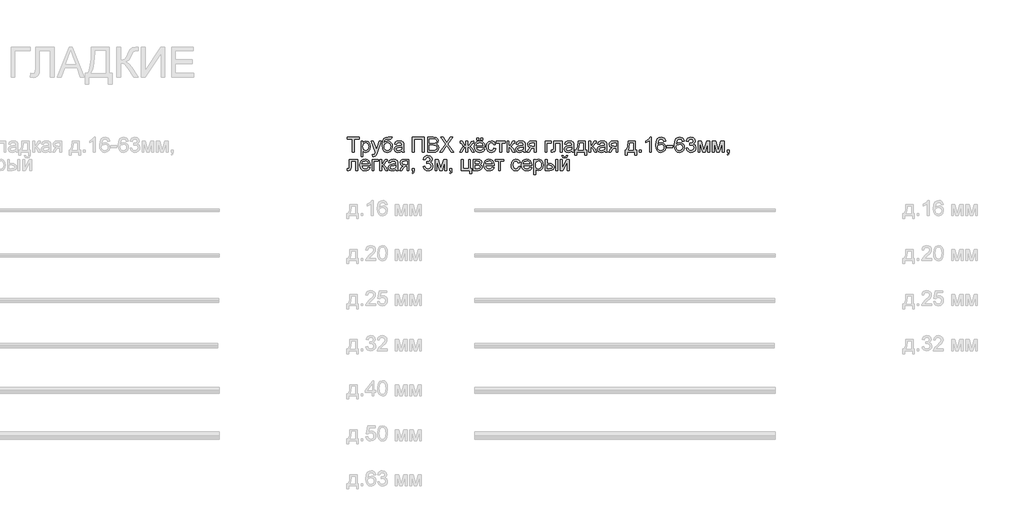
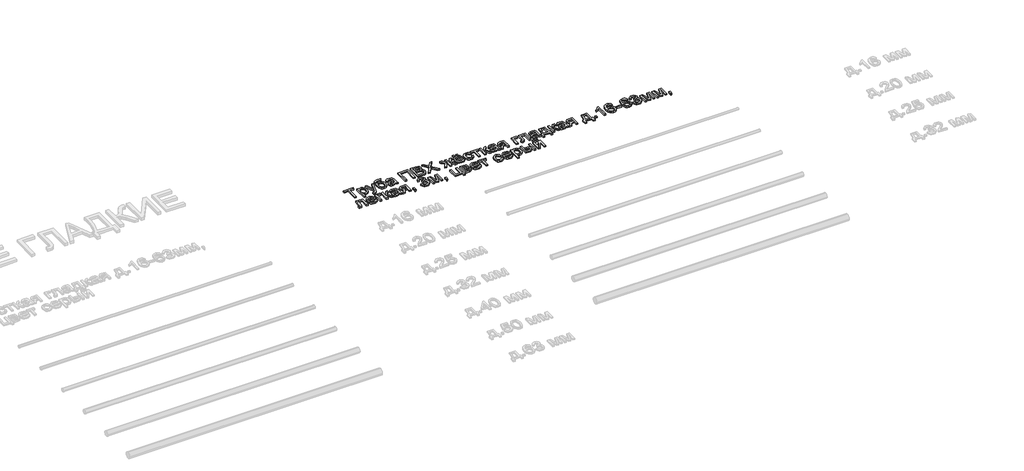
# One storey, part 93 of 98: 1 proxy.
"""IFC4 building model written with IfcOpenShell, lengths in millimetres."""

from ifc_helpers import new_model, si_unit, origin, origin_with_axes, place, context, project, spatial, polyline, outline, extrude, element, save

model = new_model("IFC4")

# Units and contexts
model_context = context("Model", 3, world=origin())
ifc_project = project(units=[si_unit("LENGTHUNIT", "METRE", prefix="MILLI")], contexts=[model_context])

# Site, building, storey
site = spatial("IfcSite", under=ifc_project)
building = spatial("IfcBuilding", under=site)
storey = spatial("IfcBuildingStorey", under=building, Name="Этаж 01", Elevation=0.0)

# Proxy
placement = place(None, origin())
element("IfcBuildingElementProxy", 1, Name="100", ObjectType="100", at=placement, inside=storey, context=model_context, shape_type="SweptSolid", body=[
    extrude(outline(polyline([(3688.710485, -3215.5625308), (3688.710485, -3127.6632594), (3655.7482582, -3127.6632594), (3655.7482582, -3115.1062206), (3734.2297505, -3115.1062206), (3734.2297505, -3127.6632594), (3701.2675238, -3127.6632594), (3701.2675238, -3215.5625308), (3688.710485, -3215.5625308)])), origin_with_axes(), (0.0, 0.0, 1.0), 10.0),
    extrude(outline(polyline([(3746.7867893, -3243.815868), (3746.7867893, -3141.789928), (3759.3438281, -3141.789928), (3759.3438281, -3154.1017121), (3768.0258432, -3143.6906516), (3779.7490161, -3140.2202982), (3795.6660437, -3145.0763405), (3806.0648415, -3158.7615507), (3809.5719831, -3178.1121437), (3805.6111203, -3198.456018), (3794.1086766, -3212.3129065), (3778.2284372, -3217.1321606), (3767.3023419, -3213.9070618), (3759.3438281, -3205.7523442), (3759.3438281, -3243.815868), (3746.7867893, -3243.815868)]), holes=[polyline([(3759.3438281, -3179.2648406), (3760.7019258, -3190.5220296), (3764.7762189, -3198.3947043), (3770.7880238, -3203.0300175), (3777.958657, -3204.5751218), (3785.2457862, -3202.9748352), (3791.4108753, -3198.1739751), (3795.6139271, -3190.0131262), (3797.0149444, -3178.3328729), (3795.6476496, -3167.1369975), (3791.5457654, -3159.1539582), (3785.5431575, -3154.3714922), (3778.4736918, -3152.7773369), (3771.376635, -3154.4726598), (3765.1441009, -3159.5586284), (3760.7938963, -3167.8758271), (3759.3438281, -3179.2648406)])]), origin_with_axes(), (0.0, 0.0, 1.0), 10.0),
    extrude(outline(polyline([(3823.6986518, -3243.815868), (3822.1290219, -3231.7248131), (3828.5056432, -3232.8284591), (3834.4653315, -3231.4427702), (3838.119626, -3227.5800093), (3841.5531913, -3218.3339085), (3842.5342099, -3215.2927506), (3815.8505025, -3141.789928), (3829.0942544, -3141.789928), (3843.2454484, -3182.7474568), (3848.1750672, -3199.1304683), (3853.1046859, -3184.6604432), (3867.6482874, -3141.789928), (3880.7939374, -3141.789928), (3855.1157741, -3217.3283643), (3848.4448473, -3233.7113759), (3841.1607838, -3242.5650692), (3831.3751227, -3245.3854978), (3823.6986518, -3243.815868)])), origin_with_axes(), (0.0, 0.0, 1.0), 10.0),
    extrude(outline(polyline([(3942.9905201, -3113.5365908), (3953.977929, -3113.5365908), (3950.7405674, -3123.3345146), (3944.3394207, -3126.8784445), (3928.9619533, -3127.6632594), (3908.250197, -3130.5572644), (3900.3039459, -3139.8278907), (3897.6184073, -3156.2354277), (3908.4954516, -3144.2179492), (3922.5117557, -3140.2202982), (3935.5776979, -3142.7617496), (3946.1788307, -3150.386104), (3953.2053768, -3162.3453345), (3955.5475588, -3177.8914145), (3950.899983, -3199.4983503), (3939.8757858, -3212.5336357), (3922.5117557, -3217.1321606), (3911.1779245, -3215.6514356), (3902.6829161, -3211.2092605), (3891.8303973, -3196.0525223), (3888.0534754, -3163.8873732), (3890.4355114, -3139.7941682), (3897.5816191, -3125.1003482), (3909.6696083, -3117.6047525), (3926.8772887, -3115.1062206), (3940.8568045, -3114.8241778), (3942.9905201, -3113.5365908)]), holes=[polyline([(3942.9905201, -3177.499007), (3941.6293567, -3167.6183097), (3937.5458665, -3159.7057812), (3930.9853043, -3154.509448), (3922.1929246, -3152.7773369), (3913.0265315, -3154.6075499), (3906.226846, -3160.0981886), (3902.0145972, -3168.6483793), (3900.6105142, -3179.657248), (3902.16175, -3190.3288916), (3906.8154572, -3198.1617124), (3913.7439014, -3202.9717695), (3922.1193482, -3204.5751218), (3930.5377145, -3202.7203835), (3937.20251, -3197.1561683), (3941.5435175, -3188.5324012), (3942.9905201, -3177.499007)])]), origin_with_axes(), (0.0, 0.0, 1.0), 10.0),
    extrude(outline(polyline([(4018.3327527, -3206.1447517), (4006.1558586, -3214.6550885), (3992.7036403, -3217.1321606), (3982.2098064, -3215.6422385), (3974.4689561, -3211.1724723), (3969.6956872, -3204.3850495), (3968.1045976, -3195.9421577), (3970.5080933, -3186.0093438), (3976.8234009, -3178.7988567), (3985.6157806, -3174.6785784), (3996.4805622, -3172.7901175), (4018.2591763, -3168.4736354), (4018.3327527, -3165.6777322), (4014.8746619, -3156.4071059), (4000.993248, -3152.7773369), (3988.2890564, -3155.1930954), (3982.2312662, -3163.7647458), (3969.6742274, -3162.195116), (3975.1066182, -3149.9323828), (3986.0449762, -3142.7464212), (4002.6119287, -3140.2202982), (4017.8299806, -3142.4521156), (4026.4261566, -3148.0561847), (4030.2766548, -3156.5787842), (4030.8897914, -3167.5661931), (4030.8897914, -3183.1889152), (4031.5274536, -3205.0043175), (4034.0290511, -3215.5625308), (4021.4720124, -3215.5625308), (4018.3327527, -3206.1447517)]), holes=[polyline([(4018.3327527, -3181.0306742), (3998.0747175, -3184.8811724), (3987.2712495, -3186.9167861), (3982.378419, -3190.227724), (3980.6616364, -3195.0592409), (3984.40177, -3201.8527951), (3995.3769162, -3204.5751218), (4008.0811077, -3201.5707522), (4016.2726135, -3194.2989514), (4018.2591763, -3184.5868668), (4018.3327527, -3181.0306742)])]), origin_with_axes(), (0.0, 0.0, 1.0), 10.0),
    extrude(outline(polyline([(4088.9660957, -3115.1062206), (4167.447588, -3115.1062206), (4167.447588, -3215.5625308), (4154.8905493, -3215.5625308), (4154.8905493, -3127.6632594), (4101.5231345, -3127.6632594), (4101.5231345, -3215.5625308), (4088.9660957, -3215.5625308), (4088.9660957, -3115.1062206)])), origin_with_axes(), (0.0, 0.0, 1.0), 10.0),
    extrude(outline(polyline([(4189.4224059, -3215.5625308), (4189.4224059, -3115.1062206), (4227.7557098, -3115.1062206), (4246.5299543, -3118.0615393), (4257.6154651, -3127.1482246), (4261.6253788, -3139.999569), (4258.2531272, -3151.7350046), (4248.0627959, -3160.6254862), (4260.4358937, -3169.9942143), (4264.7646385, -3185.6169364), (4261.8093198, -3199.1182056), (4254.4884681, -3208.7321884), (4243.5623728, -3213.8334854), (4227.4614042, -3215.5625308), (4189.4224059, -3215.5625308)]), holes=[polyline([(4201.9794447, -3155.9165966), (4224.9107557, -3155.9165966), (4238.3016603, -3154.8374761), (4246.358276, -3150.1899002), (4249.06834, -3142.0106572), (4246.542217, -3133.8191514), (4239.3072044, -3128.9753718), (4223.1694476, -3127.6632594), (4201.9794447, -3127.6632594), (4201.9794447, -3155.9165966)]), polyline([(4201.9794447, -3203.005492), (4227.7311843, -3203.005492), (4237.0508615, -3202.5149827), (4244.935799, -3199.7803932), (4250.1597233, -3194.2008496), (4252.2075997, -3185.7395637), (4249.804104, -3175.9784281), (4242.0172685, -3170.1536298), (4226.504911, -3168.4736354), (4201.9794447, -3168.4736354), (4201.9794447, -3203.005492)])]), origin_with_axes(), (0.0, 0.0, 1.0), 10.0),
    extrude(outline(polyline([(4271.0431579, -3215.5625308), (4309.7688692, -3160.8216899), (4277.3216773, -3115.1062206), (4292.3803136, -3115.1062206), (4310.651786, -3140.8334348), (4316.8076781, -3150.8643505), (4324.0181652, -3140.6617566), (4342.0934339, -3115.1062206), (4357.3727994, -3115.1062206), (4324.9256074, -3160.9688427), (4363.6513188, -3215.5625308), (4348.5926825, -3215.5625308), (4322.7918919, -3179.1667387), (4317.4208147, -3171.6128951), (4311.5101774, -3179.9025027), (4286.3225234, -3215.5625308), (4271.0431579, -3215.5625308)])), origin_with_axes(), (0.0, 0.0, 1.0), 10.0),
    extrude(outline(polyline([(4457.8291096, -3141.789928), (4457.8291096, -3173.1825249), (4465.1499613, -3170.5950882), (4472.0784055, -3157.1673954), (4480.3434877, -3144.2915256), (4492.0911861, -3141.789928), (4497.0698557, -3141.789928), (4497.0698557, -3154.4205432), (4493.611765, -3154.3469668), (4487.1370419, -3155.6468165), (4482.6488815, -3163.7892713), (4477.4372199, -3172.7165411), (4469.9937409, -3177.2537523), (4478.2036407, -3182.1404515), (4486.2050741, -3192.435016), (4500.2091154, -3215.5625308), (4485.8126667, -3215.5625308), (4472.0293546, -3192.7538471), (4465.0028085, -3183.2747543), (4457.8291096, -3181.0306742), (4457.8291096, -3215.5625308), (4445.2720708, -3215.5625308), (4445.2720708, -3181.0306742), (4438.1228974, -3183.2257034), (4431.0473003, -3192.7047961), (4417.2639882, -3215.5625308), (4402.892065, -3215.5625308), (4416.8470553, -3192.435016), (4424.9098024, -3182.1404515), (4433.1564904, -3177.2537523), (4425.2592903, -3172.2505572), (4418.4902616, -3159.3746874), (4415.1793236, -3155.1317817), (4409.7591955, -3154.2733904), (4406.0313247, -3154.3469668), (4406.0313247, -3141.789928), (4407.9197856, -3141.789928), (4418.93172, -3142.5747429), (4424.6461536, -3145.9102063), (4431.0473003, -3157.1673954), (4437.9021682, -3170.5092491), (4445.2720708, -3173.1825249), (4445.2720708, -3141.789928), (4457.8291096, -3141.789928)])), origin_with_axes(), (0.0, 0.0, 1.0), 10.0),
    extrude(outline(polyline([(4542.5891213, -3133.9417788), (4542.5891213, -3121.38474), (4555.14616, -3121.38474), (4555.14616, -3133.9417788), (4542.5891213, -3133.9417788)])), origin_with_axes(), (0.0, 0.0, 1.0), 10.0),
    extrude(outline(polyline([(4517.4750437, -3133.9417788), (4517.4750437, -3121.38474), (4530.0320825, -3121.38474), (4530.0320825, -3133.9417788), (4517.4750437, -3133.9417788)])), origin_with_axes(), (0.0, 0.0, 1.0), 10.0),
    extrude(outline(polyline([(4558.1382669, -3193.5877129), (4570.450051, -3195.1573428), (4566.0140073, -3204.4341004), (4558.9353446, -3211.368676), (4549.3734784, -3215.6912895), (4537.4878243, -3217.1321606), (4522.7541504, -3214.6458915), (4511.4172535, -3207.187084), (4504.1883723, -3195.2401162), (4501.7787453, -3179.289366), (4504.2128978, -3162.8021213), (4511.5153554, -3150.4719431), (4522.6989681, -3142.7832094), (4536.7765857, -3140.2202982), (4550.4158107, -3142.777078), (4561.3143148, -3150.4474176), (4568.4604226, -3162.7530704), (4570.8424585, -3179.2157896), (4570.7688821, -3182.600304), (4514.335784, -3182.600304), (4516.5093535, -3191.999689), (4521.5585339, -3198.9097391), (4528.8456631, -3203.1587762), (4537.7330789, -3204.5751218), (4550.044863, -3201.9508969), (4558.1382669, -3193.5877129)]), holes=[polyline([(4514.335784, -3170.0432652), (4558.2854197, -3170.0432652), (4553.2576991, -3158.6634488), (4545.9368474, -3154.2488649), (4536.7275348, -3152.7773369), (4521.2642283, -3157.4739637), (4516.3989889, -3162.9646025), (4514.335784, -3170.0432652)])]), origin_with_axes(), (0.0, 0.0, 1.0), 10.0),
    extrude(outline(polyline([(4630.4883926, -3188.8788234), (4643.0454314, -3190.4484532), (4639.5444211, -3201.6167375), (4632.9654647, -3210.0565636), (4623.9278304, -3215.3632614), (4613.0507861, -3217.1321606), (4599.693604, -3214.6642856), (4589.248821, -3207.2606604), (4582.5073834, -3195.2462476), (4580.2602376, -3178.9460095), (4584.0984731, -3158.0871004), (4595.7971205, -3144.683933), (4612.8791078, -3140.2202982), (4623.4894377, -3141.7531398), (4631.9721834, -3146.3516647), (4638.0575647, -3153.7706183), (4641.4758016, -3163.7647458), (4628.9187628, -3165.3343757), (4623.0939645, -3155.9288593), (4612.9772097, -3152.7773369), (4604.862346, -3154.3285727), (4598.4213454, -3158.9822799), (4594.2182936, -3166.9898447), (4592.8172763, -3178.602653), (4594.1876368, -3190.3718111), (4598.2987181, -3198.4069671), (4604.6232227, -3203.0330831), (4612.6338531, -3204.5751218), (4624.4673907, -3200.7246236), (4630.4883926, -3188.8788234)])), origin_with_axes(), (0.0, 0.0, 1.0), 10.0),
    extrude(outline(polyline([(4647.754321, -3141.789928), (4707.4002551, -3141.789928), (4707.4002551, -3154.3469668), (4683.8558074, -3154.3469668), (4683.8558074, -3215.5625308), (4671.2987686, -3215.5625308), (4671.2987686, -3154.3469668), (4647.754321, -3154.3469668), (4647.754321, -3141.789928)])), origin_with_axes(), (0.0, 0.0, 1.0), 10.0),
    extrude(outline(polyline([(4718.387664, -3141.789928), (4730.9447028, -3141.789928), (4730.9447028, -3173.1825249), (4739.3569377, -3170.926182), (4746.2485938, -3157.7805321), (4751.9752902, -3146.4375039), (4757.0275363, -3142.7464212), (4766.2123234, -3141.789928), (4768.6158191, -3141.789928), (4768.6158191, -3154.4205432), (4765.2313047, -3154.3469668), (4759.0999382, -3155.671342), (4754.7834561, -3163.9364241), (4749.7189473, -3172.8759566), (4742.6188248, -3177.2537523), (4750.5405504, -3182.1404515), (4758.3151232, -3192.435016), (4771.7550788, -3215.5625308), (4757.4812574, -3215.5625308), (4744.311082, -3192.9255253), (4737.689206, -3183.3483307), (4730.9447028, -3181.0306742), (4730.9447028, -3215.5625308), (4718.387664, -3215.5625308), (4718.387664, -3141.789928)])), origin_with_axes(), (0.0, 0.0, 1.0), 10.0),
    extrude(outline(polyline([(4826.6921234, -3206.1447517), (4814.5152294, -3214.6550885), (4801.0630111, -3217.1321606), (4790.5691772, -3215.6422385), (4782.8283268, -3211.1724723), (4778.055058, -3204.3850495), (4776.4639683, -3195.9421577), (4778.867464, -3186.0093438), (4785.1827716, -3178.7988567), (4793.9751513, -3174.6785784), (4804.8399329, -3172.7901175), (4826.618547, -3168.4736354), (4826.6921234, -3165.6777322), (4823.2340326, -3156.4071059), (4809.3526187, -3152.7773369), (4796.6484271, -3155.1930954), (4790.5906369, -3163.7647458), (4778.0335982, -3162.195116), (4783.465989, -3149.9323828), (4794.404347, -3142.7464212), (4810.9712995, -3140.2202982), (4826.1893513, -3142.4521156), (4834.7855273, -3148.0561847), (4838.6360255, -3156.5787842), (4839.2491622, -3167.5661931), (4839.2491622, -3183.1889152), (4839.8868243, -3205.0043175), (4842.3884219, -3215.5625308), (4829.8313831, -3215.5625308), (4826.6921234, -3206.1447517)]), holes=[polyline([(4826.6921234, -3181.0306742), (4806.4340882, -3184.8811724), (4795.6306203, -3186.9167861), (4790.7377897, -3190.227724), (4789.0210071, -3195.0592409), (4792.7611407, -3201.8527951), (4803.7362869, -3204.5751218), (4816.4404785, -3201.5707522), (4824.6319842, -3194.2989514), (4826.618547, -3184.5868668), (4826.6921234, -3181.0306742)])]), origin_with_axes(), (0.0, 0.0, 1.0), 10.0),
    extrude(outline(polyline([(4913.0217649, -3141.789928), (4913.0217649, -3215.5625308), (4900.4647262, -3215.5625308), (4900.4647262, -3187.3091935), (4893.6221211, -3187.3091935), (4884.3024438, -3188.9033489), (4875.5468524, -3199.6209776), (4865.5404621, -3215.5625308), (4851.021386, -3215.5625308), (4863.6274757, -3195.4025974), (4874.320579, -3184.9547488), (4865.7366658, -3182.3243925), (4859.7034011, -3177.3273287), (4854.9454606, -3163.1025583), (4856.5702728, -3154.5063823), (4861.4447092, -3147.7005654), (4869.3970917, -3143.2675873), (4880.2557419, -3141.789928), (4913.0217649, -3141.789928)]), holes=[polyline([(4900.4647262, -3154.3469668), (4883.9100364, -3154.3469668), (4870.506869, -3157.2532345), (4867.5024994, -3164.0590514), (4871.9293461, -3172.1647181), (4887.6133818, -3174.7521548), (4900.4647262, -3174.7521548), (4900.4647262, -3154.3469668)])]), origin_with_axes(), (0.0, 0.0, 1.0), 10.0),
    extrude(outline(polyline([(4971.0980692, -3141.789928), (5011.9084452, -3141.789928), (5011.9084452, -3154.3469668), (4983.655108, -3154.3469668), (4983.655108, -3215.5625308), (4971.0980692, -3215.5625308), (4971.0980692, -3141.789928)])), origin_with_axes(), (0.0, 0.0, 1.0), 10.0),
    extrude(outline(polyline([(5027.6047437, -3141.789928), (5084.1114182, -3141.789928), (5084.1114182, -3215.4889544), (5071.5543794, -3215.4889544), (5071.5543794, -3154.3469668), (5040.1617825, -3154.3469668), (5040.1617825, -3189.541011), (5039.3156539, -3205.7768697), (5034.668078, -3212.6317375), (5023.6806691, -3215.5625308), (5013.4780751, -3214.9248686), (5013.4780751, -3203.005492), (5019.0944069, -3203.005492), (5024.7720523, -3202.2329398), (5027.040658, -3199.7803932), (5027.6047437, -3188.8297725), (5027.6047437, -3141.789928)])), origin_with_axes(), (0.0, 0.0, 1.0), 10.0),
    extrude(outline(polyline([(5150.0358717, -3206.1447517), (5137.8589777, -3214.6550885), (5124.4067594, -3217.1321606), (5113.9129255, -3215.6422385), (5106.1720751, -3211.1724723), (5101.3988063, -3204.3850495), (5099.8077166, -3195.9421577), (5102.2112123, -3186.0093438), (5108.5265199, -3178.7988567), (5117.3188996, -3174.6785784), (5128.1836812, -3172.7901175), (5149.9622953, -3168.4736354), (5150.0358717, -3165.6777322), (5146.5777809, -3156.4071059), (5132.696367, -3152.7773369), (5119.9921754, -3155.1930954), (5113.9343852, -3163.7647458), (5101.3773465, -3162.195116), (5106.8097373, -3149.9323828), (5117.7480953, -3142.7464212), (5134.3150478, -3140.2202982), (5149.5330996, -3142.4521156), (5158.1292756, -3148.0561847), (5161.9797738, -3156.5787842), (5162.5929105, -3167.5661931), (5162.5929105, -3183.1889152), (5163.2305726, -3205.0043175), (5165.7321702, -3215.5625308), (5153.1751314, -3215.5625308), (5150.0358717, -3206.1447517)]), holes=[polyline([(5150.0358717, -3181.0306742), (5129.7778365, -3184.8811724), (5118.9743686, -3186.9167861), (5114.081538, -3190.227724), (5112.3647554, -3195.0592409), (5116.104889, -3201.8527951), (5127.0800352, -3204.5751218), (5139.7842268, -3201.5707522), (5147.9757325, -3194.2989514), (5149.9622953, -3184.5868668), (5150.0358717, -3181.0306742)])]), origin_with_axes(), (0.0, 0.0, 1.0), 10.0),
    extrude(outline(polyline([(5190.8462477, -3141.789928), (5237.9351431, -3141.789928), (5237.9351431, -3203.005492), (5247.3529222, -3203.005492), (5247.3529222, -3235.9677188), (5234.7958834, -3235.9677188), (5234.7958834, -3215.5625308), (5182.9980985, -3215.5625308), (5182.9980985, -3235.9677188), (5170.4410597, -3235.9677188), (5170.4410597, -3203.005492), (5178.2892089, -3203.005492), (5187.9890309, -3179.0563741), (5190.8462477, -3141.789928)]), holes=[polyline([(5201.8336566, -3154.3469668), (5198.8906007, -3182.9559233), (5192.4158775, -3203.005492), (5225.3781043, -3203.005492), (5225.3781043, -3154.3469668), (5201.8336566, -3154.3469668)])]), origin_with_axes(), (0.0, 0.0, 1.0), 10.0),
    extrude(outline(polyline([(5261.4795908, -3141.789928), (5274.0366295, -3141.789928), (5274.0366295, -3173.1825249), (5282.4488645, -3170.926182), (5289.3405205, -3157.7805321), (5295.0672169, -3146.4375039), (5300.119463, -3142.7464212), (5309.3042501, -3141.789928), (5311.7077458, -3141.789928), (5311.7077458, -3154.4205432), (5308.3232315, -3154.3469668), (5302.1918649, -3155.671342), (5297.8753828, -3163.9364241), (5292.810874, -3172.8759566), (5285.7107515, -3177.2537523), (5293.6324771, -3182.1404515), (5301.40705, -3192.435016), (5314.8470055, -3215.5625308), (5300.5731841, -3215.5625308), (5287.4030087, -3192.9255253), (5280.7811328, -3183.3483307), (5274.0366295, -3181.0306742), (5274.0366295, -3215.5625308), (5261.4795908, -3215.5625308), (5261.4795908, -3141.789928)])), origin_with_axes(), (0.0, 0.0, 1.0), 10.0),
    extrude(outline(polyline([(5369.7840502, -3206.1447517), (5357.6071561, -3214.6550885), (5344.1549378, -3217.1321606), (5333.6611039, -3215.6422385), (5325.9202536, -3211.1724723), (5321.1469847, -3204.3850495), (5319.5558951, -3195.9421577), (5321.9593908, -3186.0093438), (5328.2746984, -3178.7988567), (5337.067078, -3174.6785784), (5347.9318596, -3172.7901175), (5369.7104738, -3168.4736354), (5369.7840502, -3165.6777322), (5366.3259594, -3156.4071059), (5352.4445454, -3152.7773369), (5339.7403539, -3155.1930954), (5333.6825637, -3163.7647458), (5321.1255249, -3162.195116), (5326.5579157, -3149.9323828), (5337.4962737, -3142.7464212), (5354.0632262, -3140.2202982), (5369.2812781, -3142.4521156), (5377.877454, -3148.0561847), (5381.7279523, -3156.5787842), (5382.3410889, -3167.5661931), (5382.3410889, -3183.1889152), (5382.978751, -3205.0043175), (5385.4803486, -3215.5625308), (5372.9233098, -3215.5625308), (5369.7840502, -3206.1447517)]), holes=[polyline([(5369.7840502, -3181.0306742), (5349.5260149, -3184.8811724), (5338.722547, -3186.9167861), (5333.8297165, -3190.227724), (5332.1129338, -3195.0592409), (5335.8530675, -3201.8527951), (5346.8282137, -3204.5751218), (5359.5324052, -3201.5707522), (5367.723911, -3194.2989514), (5369.7104738, -3184.5868668), (5369.7840502, -3181.0306742)])]), origin_with_axes(), (0.0, 0.0, 1.0), 10.0),
    extrude(outline(polyline([(5456.1136917, -3141.789928), (5456.1136917, -3215.5625308), (5443.5566529, -3215.5625308), (5443.5566529, -3187.3091935), (5436.7140478, -3187.3091935), (5427.3943706, -3188.9033489), (5418.6387791, -3199.6209776), (5408.6323888, -3215.5625308), (5394.1133128, -3215.5625308), (5406.7194025, -3195.4025974), (5417.4125058, -3184.9547488), (5408.8285926, -3182.3243925), (5402.7953279, -3177.3273287), (5398.0373874, -3163.1025583), (5399.6621995, -3154.5063823), (5404.536636, -3147.7005654), (5412.4890184, -3143.2675873), (5423.3476686, -3141.789928), (5456.1136917, -3141.789928)]), holes=[polyline([(5443.5566529, -3154.3469668), (5427.0019631, -3154.3469668), (5413.5987958, -3157.2532345), (5410.5944261, -3164.0590514), (5415.0212728, -3172.1647181), (5430.7053086, -3174.7521548), (5443.5566529, -3174.7521548), (5443.5566529, -3154.3469668)])]), origin_with_axes(), (0.0, 0.0, 1.0), 10.0),
    extrude(outline(polyline([(5525.1774049, -3141.789928), (5572.2663003, -3141.789928), (5572.2663003, -3203.005492), (5581.6840794, -3203.005492), (5581.6840794, -3235.9677188), (5569.1270406, -3235.9677188), (5569.1270406, -3215.5625308), (5517.3292557, -3215.5625308), (5517.3292557, -3235.9677188), (5504.7722169, -3235.9677188), (5504.7722169, -3203.005492), (5512.6203661, -3203.005492), (5522.3201881, -3179.0563741), (5525.1774049, -3141.789928)]), holes=[polyline([(5536.1648138, -3154.3469668), (5533.2217579, -3182.9559233), (5526.7470348, -3203.005492), (5559.7092615, -3203.005492), (5559.7092615, -3154.3469668), (5536.1648138, -3154.3469668)])]), origin_with_axes(), (0.0, 0.0, 1.0), 10.0),
    extrude(outline(polyline([(5598.9500077, -3215.5625308), (5598.9500077, -3203.005492), (5611.5070464, -3203.005492), (5611.5070464, -3215.5625308), (5598.9500077, -3215.5625308)])), origin_with_axes(), (0.0, 0.0, 1.0), 10.0),
    extrude(outline(polyline([(5679.0011298, -3215.5625308), (5666.4440911, -3215.5625308), (5666.4440911, -3137.2772422), (5654.5492399, -3145.7507908), (5641.3300135, -3152.0906239), (5641.3300135, -3140.2202982), (5659.736376, -3128.4725998), (5670.9077259, -3115.1062206), (5679.0011298, -3115.1062206), (5679.0011298, -3215.5625308)])), origin_with_axes(), (0.0, 0.0, 1.0), 10.0),
    extrude(outline(polyline([(5773.1789206, -3141.789928), (5760.6218818, -3143.3595578), (5755.8639414, -3132.8871837), (5743.2823771, -3127.6632594), (5731.9516117, -3130.7044172), (5723.3799612, -3142.1210218), (5719.8115058, -3164.5005098), (5730.8847539, -3154.4818568), (5744.6067523, -3151.2077071), (5756.2072979, -3153.4456559), (5765.943908, -3160.1595023), (5772.5473898, -3170.4172786), (5774.7485504, -3183.2870171), (5770.6037466, -3200.614259), (5759.1994048, -3212.8769922), (5742.7428169, -3217.1321606), (5728.4965866, -3214.311732), (5717.1504927, -3205.8504461), (5709.7284735, -3190.9144371), (5707.2544671, -3168.6698391), (5710.0013193, -3143.6599948), (5718.241876, -3126.5596134), (5729.4929337, -3117.9695688), (5744.067192, -3115.1062206), (5755.0852578, -3116.8781856), (5763.9082943, -3122.1940804), (5770.0887118, -3130.6369722), (5773.1789206, -3141.789928)]), holes=[polyline([(5719.8115058, -3183.0908133), (5722.7177736, -3193.9678577), (5730.4432955, -3201.8650578), (5741.7617982, -3204.5751218), (5750.0483401, -3203.1710389), (5756.5629171, -3198.9587901), (5760.784363, -3192.3369141), (5762.1915117, -3183.70395), (5760.8027571, -3175.417408), (5756.6364935, -3169.0990348), (5750.0115519, -3165.0983181), (5741.2467634, -3163.7647458), (5726.053237, -3169.0990348), (5721.3719386, -3175.2641239), (5719.8115058, -3183.0908133)])]), origin_with_axes(), (0.0, 0.0, 1.0), 10.0),
    extrude(outline(polyline([(5782.5966997, -3185.7395637), (5782.5966997, -3173.1825249), (5821.8374458, -3173.1825249), (5821.8374458, -3185.7395637), (5782.5966997, -3185.7395637)])), origin_with_axes(), (0.0, 0.0, 1.0), 10.0),
    extrude(outline(polyline([(5897.1796784, -3141.789928), (5884.6226397, -3143.3595578), (5879.8646992, -3132.8871837), (5867.283135, -3127.6632594), (5855.9523695, -3130.7044172), (5847.380719, -3142.1210218), (5843.8122637, -3164.5005098), (5854.8855117, -3154.4818568), (5868.6075101, -3151.2077071), (5880.2080557, -3153.4456559), (5889.9446659, -3160.1595023), (5896.5481477, -3170.4172786), (5898.7493083, -3183.2870171), (5894.6045045, -3200.614259), (5883.2001626, -3212.8769922), (5866.7435747, -3217.1321606), (5852.4973444, -3214.311732), (5841.1512506, -3205.8504461), (5833.7292313, -3190.9144371), (5831.2552249, -3168.6698391), (5834.0020771, -3143.6599948), (5842.2426338, -3126.5596134), (5853.4936915, -3117.9695688), (5868.0679499, -3115.1062206), (5879.0860156, -3116.8781856), (5887.9090522, -3122.1940804), (5894.0894697, -3130.6369722), (5897.1796784, -3141.789928)]), holes=[polyline([(5843.8122637, -3183.0908133), (5846.7185314, -3193.9678577), (5854.4440533, -3201.8650578), (5865.762556, -3204.5751218), (5874.049098, -3203.1710389), (5880.563675, -3198.9587901), (5884.7851209, -3192.3369141), (5886.1922695, -3183.70395), (5884.803515, -3175.417408), (5880.6372514, -3169.0990348), (5874.0123098, -3165.0983181), (5865.2475213, -3163.7647458), (5850.0539949, -3169.0990348), (5845.3726965, -3175.2641239), (5843.8122637, -3183.0908133)])]), origin_with_axes(), (0.0, 0.0, 1.0), 10.0),
    extrude(outline(polyline([(5909.7367172, -3188.8788234), (5922.293756, -3187.3091935), (5929.2222002, -3200.5284199), (5942.1839092, -3204.5751218), (5950.7923479, -3203.1833016), (5957.4387492, -3199.007841), (5963.104132, -3185.2245289), (5957.4878002, -3172.2382945), (5943.2139788, -3167.1002093), (5934.4093363, -3168.4736354), (5935.8072879, -3155.9165966), (5937.8183762, -3156.0637494), (5952.0676721, -3152.4585059), (5956.8133499, -3147.8845064), (5958.3952424, -3141.3729951), (5953.8089802, -3131.5505458), (5941.9877054, -3127.6632594), (5930.0192779, -3131.587334), (5923.8633858, -3143.3595578), (5911.3063471, -3141.789928), (5915.0035611, -3130.5143448), (5921.5825174, -3122.0959785), (5930.5833636, -3116.8536601), (5941.5462471, -3115.1062206), (5956.6907225, -3118.5520486), (5967.285724, -3127.9698277), (5970.9522812, -3140.6372311), (5967.469665, -3152.2132512), (5957.1689691, -3160.5273843), (5970.8541793, -3169.1112975), (5975.6611707, -3185.4452581), (5973.257675, -3197.6834658), (5966.0471879, -3207.9105853), (5955.1640122, -3214.8267668), (5941.7424508, -3217.1321606), (5929.6023449, -3215.1639919), (5919.718582, -3209.2594859), (5912.8453201, -3200.2279829), (5909.7367172, -3188.8788234)])), origin_with_axes(), (0.0, 0.0, 1.0), 10.0),
    extrude(outline(polyline([(5989.7878394, -3141.789928), (6011.3947752, -3141.789928), (6028.0475669, -3200.847251), (6046.0002082, -3141.789928), (6066.6997018, -3141.789928), (6066.6997018, -3215.5625308), (6054.142663, -3215.5625308), (6054.142663, -3156.1618513), (6036.0919198, -3215.5625308), (6019.6108064, -3215.5625308), (6002.3448781, -3153.3168972), (6002.3448781, -3215.5625308), (5989.7878394, -3215.5625308), (5989.7878394, -3141.789928)])), origin_with_axes(), (0.0, 0.0, 1.0), 10.0),
    extrude(outline(polyline([(6085.53526, -3141.789928), (6107.1421958, -3141.789928), (6123.7949875, -3200.847251), (6141.7476288, -3141.789928), (6162.4471224, -3141.789928), (6162.4471224, -3215.5625308), (6149.8900837, -3215.5625308), (6149.8900837, -3156.1618513), (6131.8393404, -3215.5625308), (6115.358227, -3215.5625308), (6098.0922987, -3153.3168972), (6098.0922987, -3215.5625308), (6085.53526, -3215.5625308), (6085.53526, -3141.789928)])), origin_with_axes(), (0.0, 0.0, 1.0), 10.0),
    extrude(outline(polyline([(6184.4219403, -3215.5625308), (6184.4219403, -3203.005492), (6196.978979, -3203.005492), (6196.978979, -3215.5625308), (6194.7226361, -3228.4016124), (6187.5612, -3235.9677188), (6184.4219403, -3231.2588292), (6189.0327279, -3225.8387012), (6190.6759342, -3215.5625308), (6184.4219403, -3215.5625308)])), origin_with_axes(), (0.0, 0.0, 1.0), 10.0),
    extrude(outline(polyline([(3668.305297, -3263.7647458), (3724.8119715, -3263.7647458), (3724.8119715, -3337.4637722), (3712.2549327, -3337.4637722), (3712.2549327, -3276.3217846), (3680.8623358, -3276.3217846), (3680.8623358, -3311.5158288), (3680.0162072, -3327.7516875), (3675.3686313, -3334.6065554), (3664.3812224, -3337.5373486), (3654.1786284, -3336.8996865), (3654.1786284, -3324.9803098), (3659.7949602, -3324.9803098), (3665.4726056, -3324.2077577), (3667.7412113, -3321.755211), (3668.305297, -3310.8045903), (3668.305297, -3263.7647458)])), origin_with_axes(), (0.0, 0.0, 1.0), 10.0),
    extrude(outline(polyline([(3795.2981617, -3315.5625308), (3807.6099458, -3317.1321606), (3803.1739021, -3326.4089183), (3796.0952394, -3333.3434939), (3786.5333732, -3337.6661073), (3774.6477191, -3339.1069785), (3759.9140452, -3336.6207093), (3748.5771483, -3329.1619019), (3741.3482671, -3317.2149341), (3738.9386401, -3301.2641839), (3741.3727926, -3284.7769391), (3748.6752502, -3272.4467609), (3759.8588629, -3264.7580272), (3773.9364805, -3262.195116), (3787.5757055, -3264.7518959), (3798.4742096, -3272.4222355), (3805.6203174, -3284.7278882), (3808.0023533, -3301.1906075), (3807.9287769, -3304.5751218), (3751.4956788, -3304.5751218), (3753.6692483, -3313.9745068), (3758.7184287, -3320.884557), (3766.0055579, -3325.133594), (3774.8929737, -3326.5499397), (3787.2047578, -3323.9257148), (3795.2981617, -3315.5625308)]), holes=[polyline([(3751.4956788, -3292.0180831), (3795.4453145, -3292.0180831), (3790.4175939, -3280.6382667), (3783.0967422, -3276.2236828), (3773.8874296, -3274.7521548), (3758.4241231, -3279.4487816), (3753.5588837, -3284.9394204), (3751.4956788, -3292.0180831)])]), origin_with_axes(), (0.0, 0.0, 1.0), 10.0),
    extrude(outline(polyline([(3820.5593921, -3263.7647458), (3861.3697681, -3263.7647458), (3861.3697681, -3276.3217846), (3833.1164308, -3276.3217846), (3833.1164308, -3337.5373486), (3820.5593921, -3337.5373486), (3820.5593921, -3263.7647458)])), origin_with_axes(), (0.0, 0.0, 1.0), 10.0),
    extrude(outline(polyline([(3870.7875471, -3263.7647458), (3883.3445859, -3263.7647458), (3883.3445859, -3295.1573428), (3891.7568209, -3292.9009999), (3898.6484769, -3279.7553499), (3904.3751733, -3268.4123217), (3909.4274194, -3264.721239), (3918.6122065, -3263.7647458), (3921.0157022, -3263.7647458), (3921.0157022, -3276.395361), (3917.6311879, -3276.3217846), (3911.4998213, -3277.6461598), (3907.1833392, -3285.911242), (3902.1188304, -3294.8507744), (3895.0187079, -3299.2285702), (3902.9404335, -3304.1152694), (3910.7150063, -3314.4098338), (3924.1549619, -3337.5373486), (3909.8811405, -3337.5373486), (3896.7109651, -3314.9003432), (3890.0890892, -3305.3231486), (3883.3445859, -3303.005492), (3883.3445859, -3337.5373486), (3870.7875471, -3337.5373486), (3870.7875471, -3263.7647458)])), origin_with_axes(), (0.0, 0.0, 1.0), 10.0),
    extrude(outline(polyline([(3979.0920065, -3328.1195695), (3966.9151125, -3336.6299064), (3953.4628942, -3339.1069785), (3942.9690603, -3337.6170564), (3935.22821, -3333.1472901), (3930.4549411, -3326.3598673), (3928.8638514, -3317.9169755), (3931.2673471, -3307.9841617), (3937.5826547, -3300.7736746), (3946.3750344, -3296.6533962), (3957.239816, -3294.7649353), (3979.0184301, -3290.4484532), (3979.0920065, -3287.6525501), (3975.6339158, -3278.3819238), (3961.7525018, -3274.7521548), (3949.0483102, -3277.1679132), (3942.9905201, -3285.7395637), (3930.4334813, -3284.1699338), (3935.8658721, -3271.9072007), (3946.8042301, -3264.721239), (3963.3711826, -3262.195116), (3978.5892345, -3264.4269334), (3987.1854104, -3270.0310025), (3991.0359086, -3278.5536021), (3991.6490453, -3289.541011), (3991.6490453, -3305.163733), (3992.2867074, -3326.9791354), (3994.788305, -3337.5373486), (3982.2312662, -3337.5373486), (3979.0920065, -3328.1195695)]), holes=[polyline([(3979.0920065, -3303.005492), (3958.8339713, -3306.8559902), (3948.0305034, -3308.8916039), (3943.1376729, -3312.2025419), (3941.4208902, -3317.0340587), (3945.1610238, -3323.8276129), (3956.13617, -3326.5499397), (3968.8403616, -3323.5455701), (3977.0318673, -3316.2737693), (3979.0184301, -3306.5616846), (3979.0920065, -3303.005492)])]), origin_with_axes(), (0.0, 0.0, 1.0), 10.0),
    extrude(outline(polyline([(4065.4216481, -3263.7647458), (4065.4216481, -3337.5373486), (4052.8646093, -3337.5373486), (4052.8646093, -3309.2840114), (4046.0220042, -3309.2840114), (4036.702327, -3310.8781667), (4027.9467355, -3321.5957955), (4017.9403452, -3337.5373486), (4003.4212691, -3337.5373486), (4016.0273588, -3317.3774153), (4026.7204622, -3306.9295666), (4018.1365489, -3304.2992103), (4012.1032842, -3299.3021466), (4007.3453437, -3285.0773761), (4008.9701559, -3276.4812001), (4013.8445923, -3269.6753832), (4021.7969748, -3265.2424052), (4032.655625, -3263.7647458), (4065.4216481, -3263.7647458)]), holes=[polyline([(4052.8646093, -3276.3217846), (4036.3099195, -3276.3217846), (4022.9067521, -3279.2280524), (4019.9023825, -3286.0338693), (4024.3292292, -3294.1395359), (4040.0132649, -3296.7269726), (4052.8646093, -3296.7269726), (4052.8646093, -3276.3217846)])]), origin_with_axes(), (0.0, 0.0, 1.0), 10.0),
    extrude(outline(polyline([(4087.3964659, -3337.5373486), (4087.3964659, -3324.9803098), (4099.9535047, -3324.9803098), (4099.9535047, -3337.5373486), (4097.6971618, -3350.3764302), (4090.5357256, -3357.9425366), (4087.3964659, -3353.2336471), (4092.0072536, -3347.813519), (4093.6504598, -3337.5373486), (4087.3964659, -3337.5373486)])), origin_with_axes(), (0.0, 0.0, 1.0), 10.0),
    extrude(outline(polyline([(4159.5994388, -3310.8536412), (4172.1564776, -3309.2840114), (4179.0849218, -3322.5032377), (4192.0466308, -3326.5499397), (4200.6550695, -3325.1581195), (4207.3014709, -3320.9826588), (4212.9668536, -3307.1993467), (4207.3505218, -3294.2131123), (4193.0767004, -3289.0750271), (4184.272058, -3290.4484532), (4185.6700095, -3277.8914145), (4187.6810978, -3278.0385673), (4201.9303937, -3274.4333237), (4206.6760715, -3269.8593242), (4208.257964, -3263.3478129), (4203.6717018, -3253.5253636), (4191.8504271, -3249.6380772), (4179.8819995, -3253.5621518), (4173.7261074, -3265.3343757), (4161.1690687, -3263.7647458), (4164.8662827, -3252.4891627), (4171.4452391, -3244.0707964), (4180.4460852, -3238.8284779), (4191.4089687, -3237.0810385), (4206.5534441, -3240.5268665), (4217.1484456, -3249.9446456), (4220.8150028, -3262.6120489), (4217.3323866, -3274.188069), (4207.0316907, -3282.5022021), (4220.7169009, -3291.0861154), (4225.5238924, -3307.4200759), (4223.1203967, -3319.6582836), (4215.9099095, -3329.8854031), (4205.0267339, -3336.8015846), (4191.6051724, -3339.1069785), (4179.4650666, -3337.1388098), (4169.5813036, -3331.2343038), (4162.7080417, -3322.2028008), (4159.5994388, -3310.8536412)])), origin_with_axes(), (0.0, 0.0, 1.0), 10.0),
    extrude(outline(polyline([(4239.650561, -3263.7647458), (4261.2574968, -3263.7647458), (4277.9102885, -3322.8220688), (4295.8629298, -3263.7647458), (4316.5624234, -3263.7647458), (4316.5624234, -3337.5373486), (4304.0053847, -3337.5373486), (4304.0053847, -3278.1366691), (4285.9546414, -3337.5373486), (4269.473528, -3337.5373486), (4252.2075997, -3275.291715), (4252.2075997, -3337.5373486), (4239.650561, -3337.5373486), (4239.650561, -3263.7647458)])), origin_with_axes(), (0.0, 0.0, 1.0), 10.0),
    extrude(outline(polyline([(4338.5372413, -3337.5373486), (4338.5372413, -3324.9803098), (4351.09428, -3324.9803098), (4351.09428, -3337.5373486), (4348.8379371, -3350.3764302), (4341.676501, -3357.9425366), (4338.5372413, -3353.2336471), (4343.1480289, -3347.813519), (4344.7912352, -3337.5373486), (4338.5372413, -3337.5373486)])), origin_with_axes(), (0.0, 0.0, 1.0), 10.0),
    extrude(outline(polyline([(4413.8794739, -3263.7647458), (4426.4365127, -3263.7647458), (4426.4365127, -3324.9803098), (4462.5379991, -3324.9803098), (4462.5379991, -3263.7647458), (4475.0950379, -3263.7647458), (4475.0950379, -3324.9803098), (4482.9431871, -3324.9803098), (4482.9431871, -3357.9425366), (4470.3861483, -3357.9425366), (4470.3861483, -3337.5373486), (4413.8794739, -3337.5373486), (4413.8794739, -3263.7647458)])), origin_with_axes(), (0.0, 0.0, 1.0), 10.0),
    extrude(outline(polyline([(4493.930596, -3263.7647458), (4521.5953221, -3263.7647458), (4536.764323, -3265.4447403), (4545.2991853, -3271.6006323), (4548.8676406, -3282.3305239), (4546.7093996, -3291.0493272), (4540.210151, -3297.2665329), (4548.6469114, -3304.0723498), (4552.0069003, -3315.9058873), (4549.8793161, -3325.4769505), (4544.8209387, -3332.2153224), (4536.8133739, -3336.2068421), (4525.8382277, -3337.5373486), (4493.930596, -3337.5373486), (4493.930596, -3263.7647458)]), holes=[polyline([(4506.4876348, -3292.0180831), (4518.8975208, -3292.0180831), (4529.136903, -3291.380421), (4534.1155726, -3288.8297725), (4536.3106019, -3284.2189848), (4532.4601037, -3278.0630927), (4519.2899282, -3276.3217846), (4506.4876348, -3276.3217846), (4506.4876348, -3292.0180831)]), polyline([(4506.4876348, -3324.9803098), (4521.8896277, -3324.9803098), (4535.5503124, -3322.7117042), (4539.4498616, -3314.8758177), (4537.3038833, -3308.8302903), (4531.7120769, -3305.3108858), (4520.6633543, -3304.5751218), (4506.4876348, -3304.5751218), (4506.4876348, -3324.9803098)])]), origin_with_axes(), (0.0, 0.0, 1.0), 10.0),
    extrude(outline(polyline([(4619.3538309, -3315.5625308), (4631.665615, -3317.1321606), (4627.2295713, -3326.4089183), (4620.1509086, -3333.3434939), (4610.5890424, -3337.6661073), (4598.7033883, -3339.1069785), (4583.9697144, -3336.6207093), (4572.6328175, -3329.1619019), (4565.4039363, -3317.2149341), (4562.9943093, -3301.2641839), (4565.4284618, -3284.7769391), (4572.7309194, -3272.4467609), (4583.9145321, -3264.7580272), (4597.9921497, -3262.195116), (4611.6313747, -3264.7518959), (4622.5298788, -3272.4222355), (4629.6759866, -3284.7278882), (4632.0580225, -3301.1906075), (4631.9844461, -3304.5751218), (4575.551348, -3304.5751218), (4577.7249175, -3313.9745068), (4582.7740979, -3320.884557), (4590.0612271, -3325.133594), (4598.9486429, -3326.5499397), (4611.260427, -3323.9257148), (4619.3538309, -3315.5625308)]), holes=[polyline([(4575.551348, -3292.0180831), (4619.5009837, -3292.0180831), (4614.4732631, -3280.6382667), (4607.1524114, -3276.2236828), (4597.9430988, -3274.7521548), (4582.4797923, -3279.4487816), (4577.6145529, -3284.9394204), (4575.551348, -3292.0180831)])]), origin_with_axes(), (0.0, 0.0, 1.0), 10.0),
    extrude(outline(polyline([(4638.3365419, -3263.7647458), (4697.982476, -3263.7647458), (4697.982476, -3276.3217846), (4674.4380283, -3276.3217846), (4674.4380283, -3337.5373486), (4661.8809896, -3337.5373486), (4661.8809896, -3276.3217846), (4638.3365419, -3276.3217846), (4638.3365419, -3263.7647458)])), origin_with_axes(), (0.0, 0.0, 1.0), 10.0),
    extrude(outline(polyline([(4795.2995265, -3310.8536412), (4807.8565653, -3312.4232711), (4804.3555549, -3323.5915553), (4797.7765986, -3332.0313814), (4788.7389642, -3337.3380792), (4777.8619199, -3339.1069785), (4764.5047378, -3336.6391034), (4754.0599548, -3329.2354783), (4747.3185173, -3317.2210654), (4745.0713714, -3300.9208274), (4748.9096069, -3280.0619182), (4760.6082543, -3266.6587509), (4777.6902416, -3262.195116), (4788.3005715, -3263.7279576), (4796.7833172, -3268.3264826), (4802.8686985, -3275.7454362), (4806.2869354, -3285.7395637), (4793.7298966, -3287.3091935), (4787.9050984, -3277.9036772), (4777.7883435, -3274.7521548), (4769.6734798, -3276.3033905), (4763.2324792, -3280.9570978), (4759.0294274, -3288.9646625), (4757.6284102, -3300.5774708), (4758.9987706, -3312.346629), (4763.1098519, -3320.3817849), (4769.4343565, -3325.007901), (4777.444987, -3326.5499397), (4789.2785245, -3322.6994415), (4795.2995265, -3310.8536412)])), origin_with_axes(), (0.0, 0.0, 1.0), 10.0),
    extrude(outline(polyline([(4870.4946063, -3315.5625308), (4882.8063904, -3317.1321606), (4878.3703467, -3326.4089183), (4871.291684, -3333.3434939), (4861.7298178, -3337.6661073), (4849.8441636, -3339.1069785), (4835.1104897, -3336.6207093), (4823.7735929, -3329.1619019), (4816.5447117, -3317.2149341), (4814.1350846, -3301.2641839), (4816.5692372, -3284.7769391), (4823.8716948, -3272.4467609), (4835.0553074, -3264.7580272), (4849.1329251, -3262.195116), (4862.7721501, -3264.7518959), (4873.6706542, -3272.4222355), (4880.8167619, -3284.7278882), (4883.1987979, -3301.1906075), (4883.1252215, -3304.5751218), (4826.6921234, -3304.5751218), (4828.8656929, -3313.9745068), (4833.9148732, -3320.884557), (4841.2020024, -3325.133594), (4850.0894183, -3326.5499397), (4862.4012024, -3323.9257148), (4870.4946063, -3315.5625308)]), holes=[polyline([(4826.6921234, -3292.0180831), (4870.6417591, -3292.0180831), (4865.6140385, -3280.6382667), (4858.2931868, -3276.2236828), (4849.0838742, -3274.7521548), (4833.6205676, -3279.4487816), (4828.7553283, -3284.9394204), (4826.6921234, -3292.0180831)])]), origin_with_axes(), (0.0, 0.0, 1.0), 10.0),
    extrude(outline(polyline([(4895.7558366, -3365.7906858), (4895.7558366, -3263.7647458), (4908.3128754, -3263.7647458), (4908.3128754, -3276.07653), (4916.9948905, -3265.6654695), (4928.7180634, -3262.195116), (4944.6350911, -3267.0511583), (4955.0338888, -3280.7363686), (4958.5410305, -3300.0869615), (4954.5801677, -3320.4308358), (4943.0777239, -3334.2877243), (4927.1974845, -3339.1069785), (4916.2713892, -3335.8818796), (4908.3128754, -3327.7271621), (4908.3128754, -3365.7906858), (4895.7558366, -3365.7906858)]), holes=[polyline([(4908.3128754, -3301.2396584), (4909.6709731, -3312.4968475), (4913.7452662, -3320.3695222), (4919.7570711, -3325.0048353), (4926.9277044, -3326.5499397), (4934.2148335, -3324.949653), (4940.3799226, -3320.148793), (4944.5829744, -3311.987944), (4945.9839917, -3300.3076907), (4944.616697, -3289.1118153), (4940.5148127, -3281.128776), (4934.5122048, -3276.3463101), (4927.4427391, -3274.7521548), (4920.3456823, -3276.4474776), (4914.1131482, -3281.5334462), (4909.7629436, -3289.850645), (4908.3128754, -3301.2396584)])]), origin_with_axes(), (0.0, 0.0, 1.0), 10.0),
    extrude(outline(polyline([(4972.6676991, -3263.7647458), (4985.2247379, -3263.7647458), (4985.2247379, -3290.4484532), (5000.7493581, -3290.4484532), (5014.1678538, -3292.0211488), (5024.1098647, -3296.7392353), (5030.2626911, -3304.2225683), (5032.3136332, -3314.0910028), (5030.5937849, -3323.0765205), (5025.4342399, -3330.6579553), (5016.4977731, -3335.8175003), (5003.4471594, -3337.5373486), (4972.6676991, -3337.5373486), (4972.6676991, -3263.7647458)]), holes=[polyline([(4985.2247379, -3324.9803098), (4998.1251332, -3324.9803098), (5014.7779248, -3322.3438222), (5019.7565945, -3314.1155283), (5016.0655118, -3306.3900064), (4999.7683394, -3303.005492), (4985.2247379, -3303.005492), (4985.2247379, -3324.9803098)])]), origin_with_axes(), (0.0, 0.0, 1.0), 10.0),
    extrude(outline(polyline([(5041.7314123, -3263.7647458), (5054.2884511, -3263.7647458), (5054.2884511, -3337.5373486), (5041.7314123, -3337.5373486), (5041.7314123, -3263.7647458)])), origin_with_axes(), (0.0, 0.0, 1.0), 10.0),
    extrude(outline(polyline([(5113.9343852, -3237.0810385), (5123.3521643, -3237.0810385), (5117.2575859, -3251.0482915), (5103.7317912, -3255.9165966), (5089.0900878, -3251.0850797), (5082.5417883, -3237.0810385), (5091.9595674, -3237.0810385), (5095.4912345, -3244.1566355), (5102.6036198, -3246.4988175), (5110.4027181, -3244.2302119), (5113.9343852, -3237.0810385)])), origin_with_axes(), (0.0, 0.0, 1.0), 10.0),
    extrude(outline(polyline([(5073.1240092, -3263.7647458), (5085.681048, -3263.7647458), (5085.681048, -3320.0261656), (5116.5340847, -3263.7647458), (5132.7699434, -3263.7647458), (5132.7699434, -3337.5373486), (5120.2129046, -3337.5373486), (5120.2129046, -3281.6192853), (5089.5560717, -3337.5373486), (5073.1240092, -3337.5373486), (5073.1240092, -3263.7647458)])), origin_with_axes(), (0.0, 0.0, 1.0), 10.0),
])

save(model, "model.ifc")
